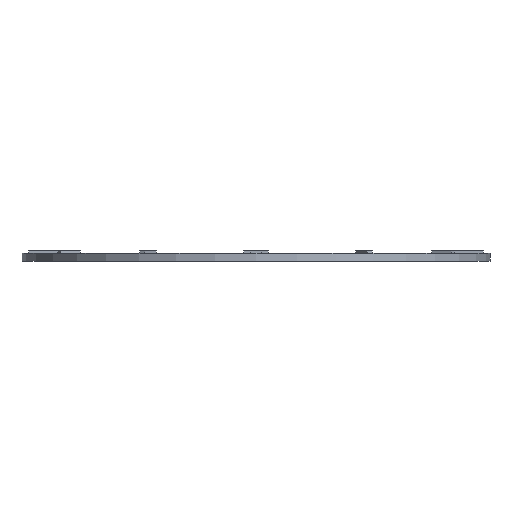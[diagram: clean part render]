
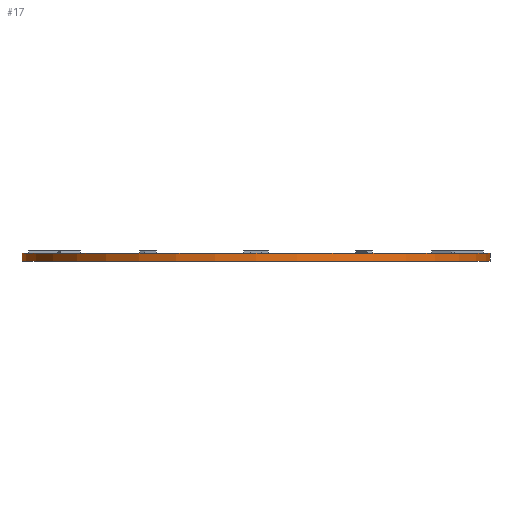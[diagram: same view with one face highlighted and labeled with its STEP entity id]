
A CAD part, front view. The second image highlights one B-rep face of the part: STEP entity #17.
In plain terms, the highlighted cylindrical face has radius 88 mm (diameter 176 mm), a full revolution.
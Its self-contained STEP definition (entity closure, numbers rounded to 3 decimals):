
#17 = ADVANCED_FACE('',(#18),#31,.T.);
#18 = FACE_BOUND('',#19,.T.);
#19 = EDGE_LOOP('',(#20,#54,#77,#104));
#20 = ORIENTED_EDGE('',*,*,#21,.F.);
#21 = EDGE_CURVE('',#22,#22,#24,.T.);
#22 = VERTEX_POINT('',#23);
#23 = CARTESIAN_POINT('',(88.,0.,3.));
#24 = SURFACE_CURVE('',#25,(#30,#42),.PCURVE_S1.);
#25 = CIRCLE('',#26,88.);
#26 = AXIS2_PLACEMENT_3D('',#27,#28,#29);
#27 = CARTESIAN_POINT('',(0.,0.,3.));
#28 = DIRECTION('',(0.,0.,1.));
#29 = DIRECTION('',(1.,0.,-0.));
#30 = PCURVE('',#31,#36);
#31 = CYLINDRICAL_SURFACE('',#32,88.);
#32 = AXIS2_PLACEMENT_3D('',#33,#34,#35);
#33 = CARTESIAN_POINT('',(0.,0.,0.));
#34 = DIRECTION('',(0.,0.,1.));
#35 = DIRECTION('',(1.,0.,-0.));
#36 = DEFINITIONAL_REPRESENTATION('',(#37),#41);
#37 = LINE('',#38,#39);
#38 = CARTESIAN_POINT('',(0.,3.));
#39 = VECTOR('',#40,1.);
#40 = DIRECTION('',(1.,0.));
#41 = ( GEOMETRIC_REPRESENTATION_CONTEXT(2) 
PARAMETRIC_REPRESENTATION_CONTEXT() REPRESENTATION_CONTEXT('2D SPACE',''
  ) );
#42 = PCURVE('',#43,#48);
#43 = PLANE('',#44);
#44 = AXIS2_PLACEMENT_3D('',#45,#46,#47);
#45 = CARTESIAN_POINT('',(0.,0.,3.));
#46 = DIRECTION('',(0.,0.,1.));
#47 = DIRECTION('',(1.,0.,-0.));
#48 = DEFINITIONAL_REPRESENTATION('',(#49),#53);
#49 = CIRCLE('',#50,88.);
#50 = AXIS2_PLACEMENT_2D('',#51,#52);
#51 = CARTESIAN_POINT('',(0.,0.));
#52 = DIRECTION('',(1.,0.));
#53 = ( GEOMETRIC_REPRESENTATION_CONTEXT(2) 
PARAMETRIC_REPRESENTATION_CONTEXT() REPRESENTATION_CONTEXT('2D SPACE',''
  ) );
#54 = ORIENTED_EDGE('',*,*,#55,.F.);
#55 = EDGE_CURVE('',#56,#22,#58,.T.);
#56 = VERTEX_POINT('',#57);
#57 = CARTESIAN_POINT('',(88.,0.,0.));
#58 = SEAM_CURVE('',#59,(#63,#70),.PCURVE_S1.);
#59 = LINE('',#60,#61);
#60 = CARTESIAN_POINT('',(88.,0.,0.));
#61 = VECTOR('',#62,1.);
#62 = DIRECTION('',(0.,0.,1.));
#63 = PCURVE('',#31,#64);
#64 = DEFINITIONAL_REPRESENTATION('',(#65),#69);
#65 = LINE('',#66,#67);
#66 = CARTESIAN_POINT('',(6.283,-0.));
#67 = VECTOR('',#68,1.);
#68 = DIRECTION('',(0.,1.));
#69 = ( GEOMETRIC_REPRESENTATION_CONTEXT(2) 
PARAMETRIC_REPRESENTATION_CONTEXT() REPRESENTATION_CONTEXT('2D SPACE',''
  ) );
#70 = PCURVE('',#31,#71);
#71 = DEFINITIONAL_REPRESENTATION('',(#72),#76);
#72 = LINE('',#73,#74);
#73 = CARTESIAN_POINT('',(0.,-0.));
#74 = VECTOR('',#75,1.);
#75 = DIRECTION('',(0.,1.));
#76 = ( GEOMETRIC_REPRESENTATION_CONTEXT(2) 
PARAMETRIC_REPRESENTATION_CONTEXT() REPRESENTATION_CONTEXT('2D SPACE',''
  ) );
#77 = ORIENTED_EDGE('',*,*,#78,.T.);
#78 = EDGE_CURVE('',#56,#56,#79,.T.);
#79 = SURFACE_CURVE('',#80,(#85,#92),.PCURVE_S1.);
#80 = CIRCLE('',#81,88.);
#81 = AXIS2_PLACEMENT_3D('',#82,#83,#84);
#82 = CARTESIAN_POINT('',(0.,0.,0.));
#83 = DIRECTION('',(0.,0.,1.));
#84 = DIRECTION('',(1.,0.,-0.));
#85 = PCURVE('',#31,#86);
#86 = DEFINITIONAL_REPRESENTATION('',(#87),#91);
#87 = LINE('',#88,#89);
#88 = CARTESIAN_POINT('',(0.,0.));
#89 = VECTOR('',#90,1.);
#90 = DIRECTION('',(1.,0.));
#91 = ( GEOMETRIC_REPRESENTATION_CONTEXT(2) 
PARAMETRIC_REPRESENTATION_CONTEXT() REPRESENTATION_CONTEXT('2D SPACE',''
  ) );
#92 = PCURVE('',#93,#98);
#93 = PLANE('',#94);
#94 = AXIS2_PLACEMENT_3D('',#95,#96,#97);
#95 = CARTESIAN_POINT('',(0.,0.,0.));
#96 = DIRECTION('',(0.,0.,1.));
#97 = DIRECTION('',(1.,0.,-0.));
#98 = DEFINITIONAL_REPRESENTATION('',(#99),#103);
#99 = CIRCLE('',#100,88.);
#100 = AXIS2_PLACEMENT_2D('',#101,#102);
#101 = CARTESIAN_POINT('',(0.,0.));
#102 = DIRECTION('',(1.,0.));
#103 = ( GEOMETRIC_REPRESENTATION_CONTEXT(2) 
PARAMETRIC_REPRESENTATION_CONTEXT() REPRESENTATION_CONTEXT('2D SPACE',''
  ) );
#104 = ORIENTED_EDGE('',*,*,#55,.T.);
